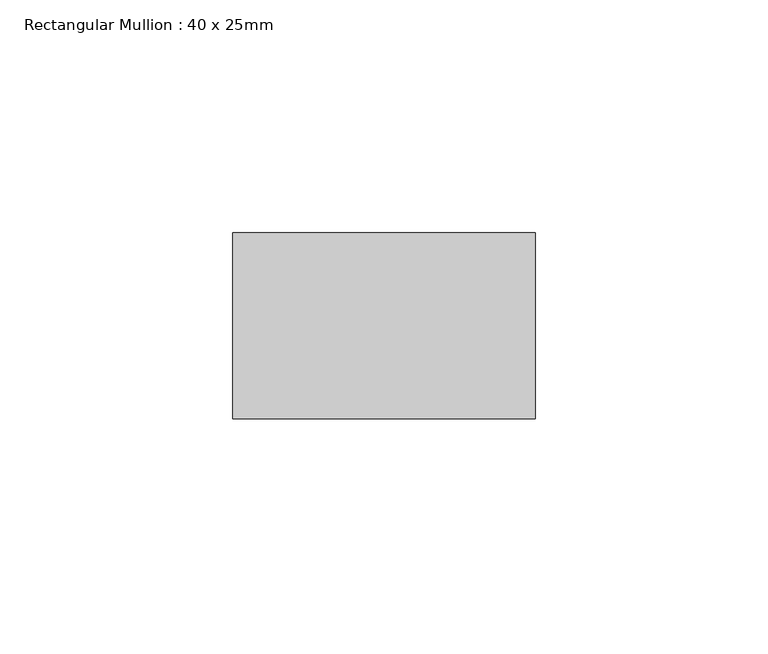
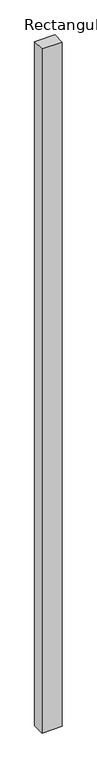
"""IFC4 building model written with IfcOpenShell, lengths in millimetres: member geometry, Rectangular Mullion : 40 x 25mm."""

import ifcopenshell
import ifcopenshell.guid

model = None  # the IFC model being written
_history = None  # IfcOwnerHistory: only IFC2X3 demands one
_inside = {}  # id of a spatial element -> (the spatial element, [elements in it])
_under = {}  # id of a project, library or spatial element -> (it, [spatial elements below it])
_declared = {}  # id of a project -> (the project, [libraries it declares])
_typed = {}  # id of a type object -> (the type object, [elements of that type])
_made_of = {}  # id of a material, layer set ... -> (it, [elements and type objects made of it])


def new_model(schema):
    """Start an empty IFC model of exactly this schema.

    Asked for "IFC4X3", IfcOpenShell would pick the latest addendum, in which some entities
    have other attributes; the version numbers below select the first issue.
    IFC2X3 requires an IfcOwnerHistory on every rooted entity: one is made here for all.
    """
    global model, _history
    if schema == "IFC4X3":
        model = ifcopenshell.file(schema_version=(4, 3, 0, 0))
    else:
        model = ifcopenshell.file(schema=schema)
    _inside.clear()
    _under.clear()
    _declared.clear()
    _typed.clear()
    _made_of.clear()
    _history = None
    if model.schema == "IFC2X3":
        org = make("IfcOrganization", Name="unknown")
        user = make(
            "IfcPersonAndOrganization",
            ThePerson=make("IfcPerson", FamilyName="unknown"),
            TheOrganization=org,
        )
        app = make(
            "IfcApplication",
            ApplicationDeveloper=org,
            Version="unknown",
            ApplicationFullName="unknown",
            ApplicationIdentifier="unknown",
        )
        _history = make(
            "IfcOwnerHistory",
            OwningUser=user,
            OwningApplication=app,
            ChangeAction="ADDED",
            CreationDate=0,
        )
    return model


def make(cls, **values):
    """One entity of the class cls with the attributes given. An attribute that is None is left unset."""
    return model.create_entity(
        cls, **{name: value for name, value in values.items() if value is not None}
    )


def rooted(cls, **values):
    """An entity with a GlobalId (a new one), such as an element, a storey or a relation."""
    return make(cls, GlobalId=ifcopenshell.guid.new(), OwnerHistory=_history, **values)


def si_unit(unit_type, name, prefix=None):
    """IfcSIUnit, for example si_unit("LENGTHUNIT", "METRE", prefix="MILLI")."""
    return make("IfcSIUnit", UnitType=unit_type, Prefix=prefix, Name=name)


def assignment(units):
    """IfcUnitAssignment: the units of a project."""
    return None if units is None else make("IfcUnitAssignment", Units=units)


def point(xyz):
    """IfcCartesianPoint."""
    return None if xyz is None else make("IfcCartesianPoint", Coordinates=xyz)


def direction(xyz):
    """IfcDirection."""
    return None if xyz is None else make("IfcDirection", DirectionRatios=xyz)


def frame(location, z_axis=None, x_axis=None):
    """IfcAxis2Placement3D, a coordinate frame: its origin and axes. An axis left out is left unset."""
    return make(
        "IfcAxis2Placement3D",
        Location=point(location),
        Axis=direction(z_axis),
        RefDirection=direction(x_axis),
    )


def origin():
    """The frame at (0, 0, 0) with its axes left unset."""
    return frame((0.0, 0.0, 0.0))


def place(relative_to, where):
    """IfcLocalPlacement: puts the frame where relative to a parent placement (None: the world)."""
    return make(
        "IfcLocalPlacement", PlacementRelTo=relative_to, RelativePlacement=where
    )


def context(
    kind, dimensions, precision=None, world=None, true_north=None, identifier=None
):
    """IfcGeometricRepresentationContext, for example the 3D "Model" context."""
    return make(
        "IfcGeometricRepresentationContext",
        ContextIdentifier=identifier,
        ContextType=kind,
        CoordinateSpaceDimension=dimensions,
        Precision=precision,
        WorldCoordinateSystem=world,
        TrueNorth=true_north,
    )


def project(units=None, contexts=None):
    """IfcProject with its units and contexts."""
    return rooted(
        "IfcProject",
        Name="project",
        RepresentationContexts=contexts,
        UnitsInContext=assignment(units),
    )


def spatial(cls, under=None, at=None, **own):
    """A site, building, storey or space (cls), placed at a placement, below another one or the project."""
    s = rooted(cls, ObjectPlacement=at, **own)
    if under is not None:
        _under.setdefault(under.id(), (under, []))[1].append(s)
    return s


def polyline(points):
    """IfcPolyline through the points."""
    return make("IfcPolyline", Points=[point(p) for p in points])


def outline(outer, holes=None, kind="AREA"):
    """IfcArbitraryClosedProfileDef: a profile drawn as a closed curve; with holes, ...WithVoids."""
    if holes is None:
        return make("IfcArbitraryClosedProfileDef", ProfileType=kind, OuterCurve=outer)
    return make(
        "IfcArbitraryProfileDefWithVoids",
        ProfileType=kind,
        OuterCurve=outer,
        InnerCurves=holes,
    )


def extrude(swept, where, along, depth):
    """IfcExtrudedAreaSolid: the profile swept, set in the frame where, extruded along a direction by depth."""
    return make(
        "IfcExtrudedAreaSolid",
        SweptArea=swept,
        Position=where,
        ExtrudedDirection=direction(along),
        Depth=depth,
    )


def shape(context_of_items, identifier, shape_type, items):
    """IfcShapeRepresentation: the items that make up one representation, for example the "Body"."""
    return make(
        "IfcShapeRepresentation",
        ContextOfItems=context_of_items,
        RepresentationIdentifier=identifier,
        RepresentationType=shape_type,
        Items=items,
    )


def source(mapping_origin, context_of_items, identifier, shape_type, items):
    """IfcRepresentationMap: a shape defined once, which mapped items show again and again."""
    return make(
        "IfcRepresentationMap",
        MappingOrigin=mapping_origin,
        MappedRepresentation=shape(context_of_items, identifier, shape_type, items),
    )


def transform(
    local_origin,
    x_axis=None,
    y_axis=None,
    z_axis=None,
    scale=None,
    scale2=None,
    scale3=None,
    uniform=True,
):
    """IfcCartesianTransformationOperator3D, or its non-uniform kind. x_axis, y_axis, z_axis: its Axis1, 2, 3."""
    if uniform:
        return make(
            "IfcCartesianTransformationOperator3D",
            Axis1=direction(x_axis),
            Axis2=direction(y_axis),
            LocalOrigin=point(local_origin),
            Scale=scale,
            Axis3=direction(z_axis),
        )
    return make(
        "IfcCartesianTransformationOperator3DnonUniform",
        Axis1=direction(x_axis),
        Axis2=direction(y_axis),
        LocalOrigin=point(local_origin),
        Scale=scale,
        Axis3=direction(z_axis),
        Scale2=scale2,
        Scale3=scale3,
    )


def mapped(mapping_source, mapping_target):
    """IfcMappedItem: shows the shape of a source again, moved by a transform."""
    return make(
        "IfcMappedItem", MappingSource=mapping_source, MappingTarget=mapping_target
    )


def made_of(thing, what):
    """Note that an element or type object is made of a material, layer set ...; save() writes the relation."""
    if what is not None:
        _made_of.setdefault(what.id(), (what, []))[1].append(thing)
    return thing


def element(
    cls,
    number,
    at=None,
    inside=None,
    cuts=None,
    type_object=None,
    material=None,
    context=None,
    identifier="Body",
    shape_type=None,
    held_by="IfcProductDefinitionShape",
    body=None,
    shapes=None,
    **own,
):
    """One element of the class cls, such as IfcWall. Its Tag is "e" and its number.

    at: its placement. inside: the storey or other place that contains it. cuts: it is an
    opening in that element (IfcRelVoidsElement). A single representation is given by context,
    identifier, shape_type and body (its items); several are given by shapes. held_by: the class
    of the entity that holds the representations. save() writes the other relations.
    """
    e = rooted(cls, Tag="e%d" % number, ObjectPlacement=at, **own)
    if body is not None:
        shapes = [shape(context, identifier, shape_type, body)]
    if shapes is not None:
        e.Representation = make(held_by, Representations=shapes)
    if inside is not None:
        _inside.setdefault(inside.id(), (inside, []))[1].append(e)
    if cuts is not None:
        rooted(
            "IfcRelVoidsElement", RelatingBuildingElement=cuts, RelatedOpeningElement=e
        )
    if type_object is not None:
        _typed.setdefault(type_object.id(), (type_object, []))[1].append(e)
    return made_of(e, material)


def aggregate(whole, parts):
    """IfcRelAggregates: a whole, such as a stair, and the parts it consists of."""
    return rooted("IfcRelAggregates", RelatingObject=whole, RelatedObjects=parts)


def save(model, path):
    """Write the relations noted so far, then the file.

    IfcRelAggregates (storeys below a building ...), IfcRelContainedInSpatialStructure (elements
    in a storey), IfcRelDefinesByType, IfcRelAssociatesMaterial and IfcRelDeclares: one each for
    every whole, place, type object, material and project.
    """
    for whole, parts in _under.values():
        aggregate(whole, parts)
    for where, things in _inside.values():
        rooted(
            "IfcRelContainedInSpatialStructure",
            RelatedElements=things,
            RelatingStructure=where,
        )
    for kind, things in _typed.values():
        rooted("IfcRelDefinesByType", RelatedObjects=things, RelatingType=kind)
    for what, things in _made_of.values():
        rooted("IfcRelAssociatesMaterial", RelatedObjects=things, RelatingMaterial=what)
    for by, libraries in _declared.values():
        rooted("IfcRelDeclares", RelatingContext=by, RelatedDefinitions=libraries)
    model.write(path)


def rectangular_mullion_40_x_25mm_1ed16f79(model_context):
    return source(origin(), model_context, "Body", "SweptSolid", [
        extrude(outline(polyline([(0.0, -20.0), (0.0, -60.0), (-65.0, -60.0), (-65.0, -20.0), (0.0, -20.0)])), frame((0.0, 0.0, -2331.3909204), z_axis=(0.0, 0.0, 1.0), x_axis=(1.0, 0.0, 0.0)), (0.0, 0.0, 1.0), 2331.3909204),
    ])


if __name__ == "__main__":
    model = new_model("IFC4")
    model_context = context("Model", 3, world=origin())
    ifc_project = project(units=[si_unit("LENGTHUNIT", "METRE", prefix="MILLI")], contexts=[model_context])
    site = spatial("IfcSite", under=ifc_project)
    building = spatial("IfcBuilding", under=site)
    placement = place(None, origin())
    rectangular_mullion_40_x_25mm_shape = rectangular_mullion_40_x_25mm_1ed16f79(model_context)
    element("IfcMember", 1, ObjectType="Rectangular Mullion : 40 x 25mm", at=placement, inside=building, context=model_context, shape_type="MappedRepresentation", body=[
        mapped(rectangular_mullion_40_x_25mm_shape, transform((0.0, 0.0, 0.0), x_axis=(1.0, 0.0, 0.0), y_axis=(0.0, 1.0, 0.0), z_axis=(0.0, 0.0, 1.0))),
    ])
    save(model, "model.ifc")
